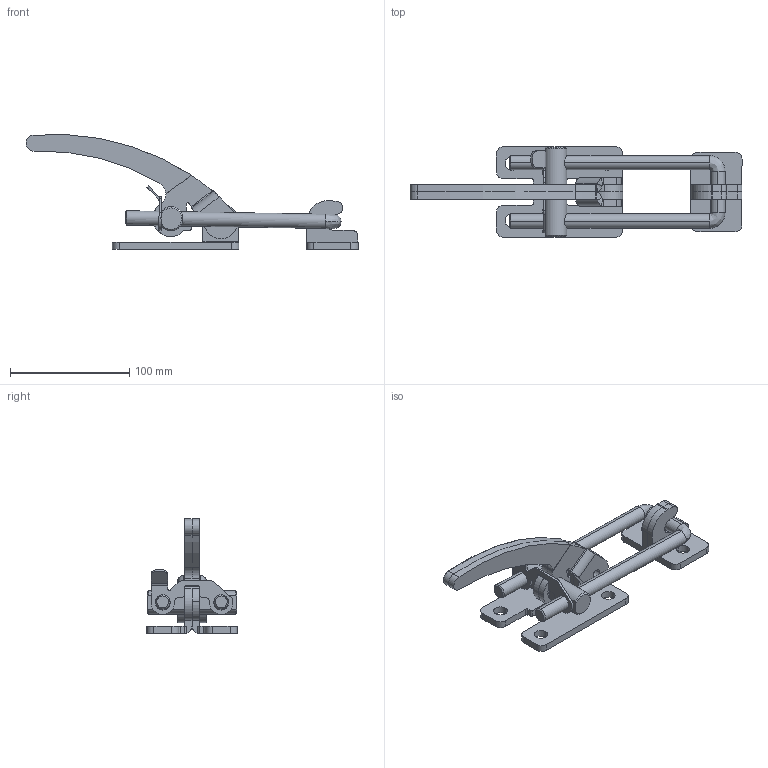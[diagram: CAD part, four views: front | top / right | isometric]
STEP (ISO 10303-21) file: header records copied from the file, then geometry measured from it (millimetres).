
FILE_DESCRIPTION (( 'STEP AP214' ), '1' );
FILE_NAME ('M42F-8.STEP', '2020-12-01T09:24:42', ( '' ), ( '' ), 'SwSTEP 2.0', 'SolidWorks 2015', '' );
FILE_SCHEMA (( 'AUTOMOTIVE_DESIGN' ));
Length unit declared in the file: millimetre
Products named in the file (9): M42F-8; M42F-8-06_karsilik; M42F-8-01_Ayak(sol); M42F-8-03_tespit_mili; M42F-8-05_Kanca; M42F-8-04_Kanca_hareket_elemani; M42F-8-01_Ayak(sag)original_resimli; M42F-8-02_Kol(sag); M42F-8-02_Kol
Assembly tree (8 placements, depth 2):
  M42F-8
    M42F-8-02_Kol
    M42F-8-02_Kol(sag)
    M42F-8-01_Ayak(sag)original_resimli
    M42F-8-04_Kanca_hareket_elemani
    M42F-8-05_Kanca
    M42F-8-03_tespit_mili
    M42F-8-01_Ayak(sol)
    M42F-8-06_karsilik
Bounding box: 278.71 x 76 x 96.34 mm (x, y, z)
Volume: 201916.1 mm3; surface area: 82182.5 mm2
Topology: 9 solids, 9 shells, 272 faces, 741 edges, 482 vertices
Faces by surface type: cylinder 141, plane 103, bspline 18, cone 10
Entity records: 12782 total; most frequent: CARTESIAN_POINT 2342, DIRECTION 1525, ORIENTED_EDGE 1478, EDGE_CURVE 739, AXIS2_PLACEMENT_3D 561, VERTEX_POINT 482, VECTOR 403, LINE 403
